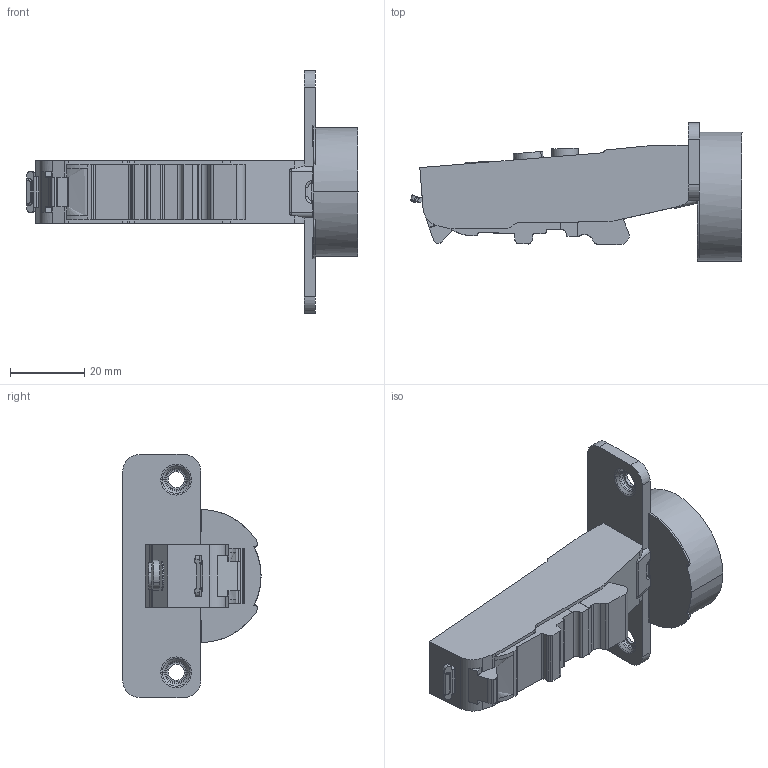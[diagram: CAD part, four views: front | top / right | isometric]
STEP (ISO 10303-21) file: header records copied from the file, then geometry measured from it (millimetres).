
FILE_DESCRIPTION (( 'STEP AP203' ), '1' );
FILE_NAME ('C81B876FAB DTC 3D CLOSE.STEP', '2024-07-18T05:54:19', ( '微软用户' ), ( '微软中国' ), 'SwSTEP 2.0', 'SolidWorks 2021', '' );
FILE_SCHEMA (( 'CONFIG_CONTROL_DESIGN' ));
Length unit declared in the file: millimetre
Products named in the file (1): C81B876FAB DTC 3D CLOSE
Bounding box: 89.61 x 37.33 x 65.6 mm (x, y, z)
Volume: 39431.7 mm3; surface area: 11248.3 mm2
Topology: 1 solids, 1 shells, 252 faces, 706 edges, 462 vertices
Faces by surface type: cylinder 110, plane 95, torus 28, bspline 15, cone 4
Entity records: 8702 total; most frequent: CARTESIAN_POINT 2157, ORIENTED_EDGE 1412, DIRECTION 1340, EDGE_CURVE 706, AXIS2_PLACEMENT_3D 496, VERTEX_POINT 462, VECTOR 348, LINE 348
